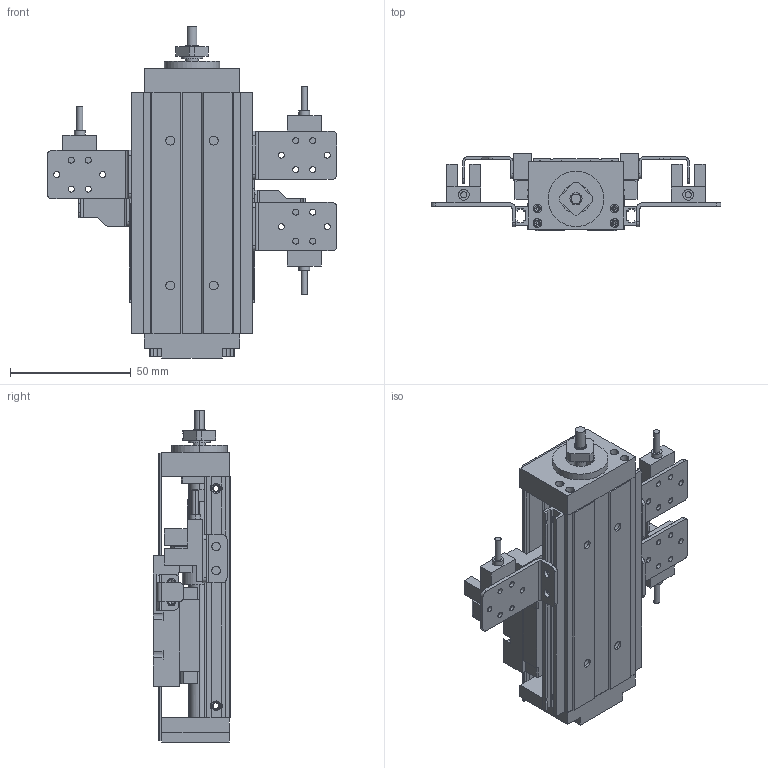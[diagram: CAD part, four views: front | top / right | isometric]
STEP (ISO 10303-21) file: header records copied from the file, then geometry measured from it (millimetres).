
FILE_DESCRIPTION (( 'STEP AP203' ), '1' );
FILE_NAME ('HKK4001C-100A1H0S2-3D.STEP', '2019-11-01T06:46:52', ( '微软中国' ), ( 'Microsoft' ), 'SwSTEP 2.0', 'SolidWorks 2016', '' );
FILE_SCHEMA (( 'CONFIG_CONTROL_DESIGN' ));
Length unit declared in the file: millimetre
Products named in the file (3): 錨璃6; 錨璃5; HKK4001C-100A1H0S2-3D
Assembly tree (2 placements, depth 2):
  HKK4001C-100A1H0S2-3D
    錨璃5
    錨璃6
Bounding box: 120 x 32 x 137.5 mm (x, y, z)
Volume: 104140.1 mm3; surface area: 67740 mm2
Topology: 2 solids, 2 shells, 1067 faces, 2875 edges, 1806 vertices
Faces by surface type: cylinder 479, plane 438, cone 150
Entity records: 34074 total; most frequent: CARTESIAN_POINT 6502, DIRECTION 5855, ORIENTED_EDGE 5606, EDGE_CURVE 2803, AXIS2_PLACEMENT_3D 2091, VERTEX_POINT 1806, VECTOR 1673, LINE 1673
